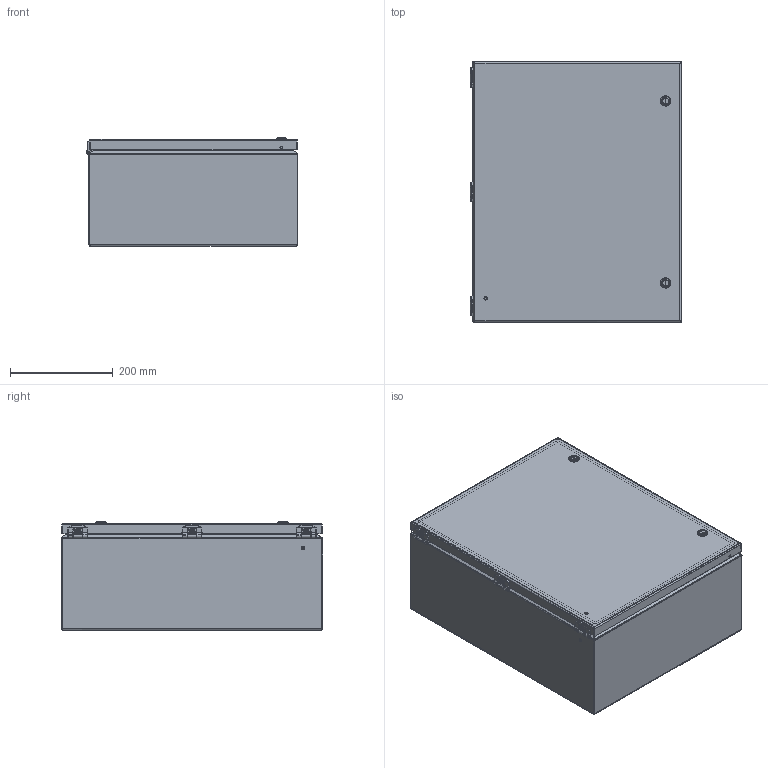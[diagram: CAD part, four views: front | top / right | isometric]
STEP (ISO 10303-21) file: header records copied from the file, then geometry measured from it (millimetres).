
FILE_DESCRIPTION((''),'2;1');
FILE_NAME('MODEL-058_ASM','2025-08-14T12:51:47',('mikek'),('SAGINAW CONTROL & ENGINEERING'),'CREO PARAMETRIC BY PTC INC, 2021284','CREO PARAMETRIC BY PTC INC, 2021284','');
FILE_SCHEMA(('AUTOMOTIVE_DESIGN { 1 0 10303 214 1 1 1 1 }'));
Length unit declared in the file: inch
Products named in the file (25): MODEL-058-BDY; MODEL-058-DR; 112643-BOX-LEAF; 112643-BOX-LEAF-STUD; 112643-BOX_ASM; 112643-DOOR-LEAF; 112643-DOOR-LEAF-STUD; 112643-DOOR_ASM; 112643-PIN; 112643_ASM; 113152; 100063; 112987_SHAFT; 112987_SCREW; 112987_CAM; 112987_INSERT; 112987_NUT; 112987_ASM; 100009; MODEL-058-GSKT; 120704; CH-ELJ_SUBPANEL; 102479; CH-ELJ_SUBPANEL-SUBASSEMBLY_ASM; MODEL-058_ASM
Assembly tree (47 placements, depth 4):
  MODEL-058_ASM
    MODEL-058-BDY
    MODEL-058-DR
    112643_ASM  x3
      112643-BOX_ASM
        112643-BOX-LEAF
        112643-BOX-LEAF-STUD
      112643-DOOR_ASM
        112643-DOOR-LEAF
        112643-DOOR-LEAF-STUD
      112643-PIN
    113152  x6
    100063  x2
    112987_ASM  x2
      112987_SHAFT
      112987_SCREW
      112987_CAM
      112987_INSERT
      112987_NUT
    100009  x8
    MODEL-058-GSKT
    120704
    CH-ELJ_SUBPANEL-SUBASSEMBLY_ASM
      CH-ELJ_SUBPANEL
      102479  x8
Bounding box: 412 x 508 x 210.99 mm (x, y, z)
Volume: 1693999.3 mm3; surface area: 2089363.8 mm2
Topology: 53 solids, 56 shells, 5045 faces, 12952 edges, 7920 vertices
Faces by surface type: plane 1574, cylinder 1362, bspline 1280, cone 627, torus 182, sphere 20
Entity records: 115067 total; most frequent: CARTESIAN_POINT 58446, ORIENTED_EDGE 8674, DIRECTION 7241, PRESENTATION_STYLE_ASSIGNMENT 4571, STYLED_ITEM 4561, CURVE_STYLE 4337, EDGE_CURVE 4337, AXIS2_PLACEMENT_3D 2751
